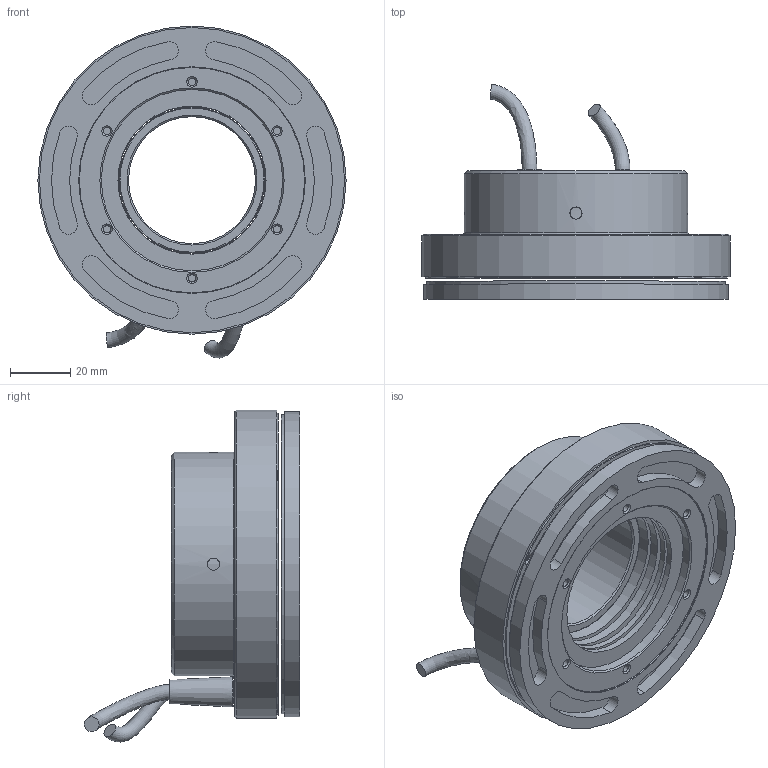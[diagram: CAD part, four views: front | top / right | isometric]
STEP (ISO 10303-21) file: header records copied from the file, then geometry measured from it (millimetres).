
FILE_DESCRIPTION(('STEP AP242'), '1');
FILE_NAME('Ñáîðêà läâèãàòåëÿ MD69 V2 öåëüíûé', '', ('UNSPECIFIED'), ('UNSPECIFIED'), 'C3D Converter', 'C3D Toolkit', '');
FILE_SCHEMA(('AP242_MANAGED_MODEL_BASED_3D_ENGINEERING_MIM_LF { 1 0 10303 442 1 1 4 }'));
Length unit declared in the file: millimetre
Products named in the file (1): ДМШК.654783.002
Bounding box: 102 x 71.23 x 109.86 mm (x, y, z)
Volume: 163227 mm3; surface area: 72325.3 mm2
Topology: 4 solids, 12 shells, 752 faces, 1911 edges, 1233 vertices
Faces by surface type: plane 473, cylinder 196, cone 58, torus 15, bspline 6, revolution 4
Full cylindrical faces by diameter (mm): 1 x29, 1.567 x6, 2 x13, 2.459 x6, 3.8 x7, 3.9 x6, 4.9 x2, 4.917 x6, 6 x1, 7.5 x1, 10 x1, 42 x1, 48.2 x1, 48.8 x1, 49 x2, 49.5 x1, 60 x1, 65.5 x1, 66 x1, 70 x1, 74 x1, 75 x1, 99 x2, 100 x1, 101 x1, 102 x1
Entity records: 32167 total; most frequent: CARTESIAN_POINT 8168, DIRECTION 3695, ORIENTED_EDGE 3460, EDGE_CURVE 1730, AXIS2_PLACEMENT_3D 1257, VERTEX_POINT 1223, LINE 1177, VECTOR 1177
